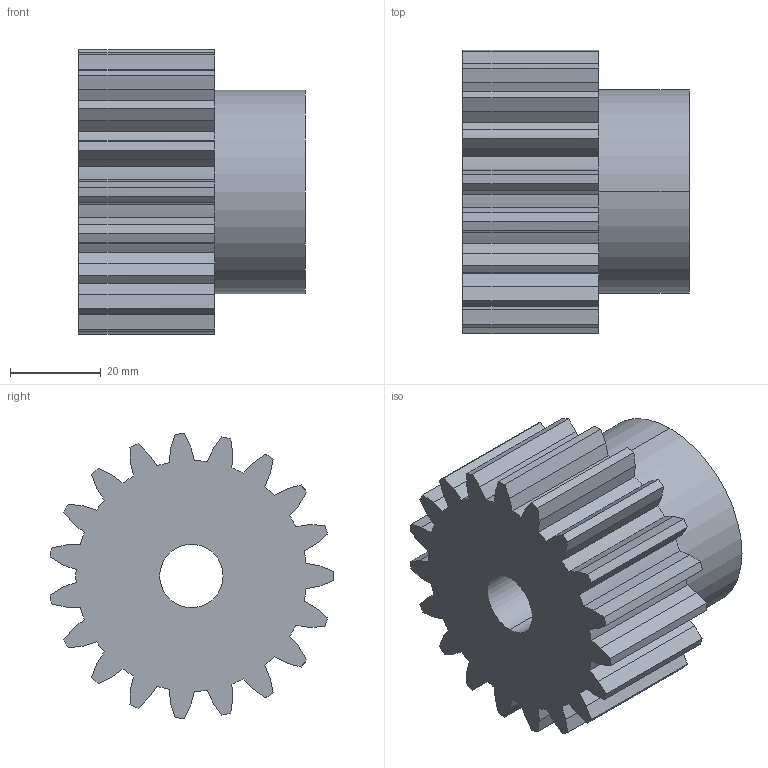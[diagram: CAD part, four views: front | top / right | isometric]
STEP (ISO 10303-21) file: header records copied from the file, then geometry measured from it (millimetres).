
FILE_DESCRIPTION (( 'STEP AP203' ), '1' );
FILE_NAME ('PM 30019.STEP', '2013-09-25T13:43:01', ( '' ), ( '' ), 'SwSTEP 2.0', 'SolidWorks 2010', '' );
FILE_SCHEMA (( 'CONFIG_CONTROL_DESIGN' ));
Length unit declared in the file: millimetre
Products named in the file (1): PM 30019
Bounding box: 50 x 62.72 x 62.92 mm (x, y, z)
Volume: 99555 mm3; surface area: 19821.4 mm2
Topology: 1 solids, 1 shells, 121 faces, 354 edges, 236 vertices
Faces by surface type: plane 79, cylinder 42
Entity records: 4169 total; most frequent: CARTESIAN_POINT 991, ORIENTED_EDGE 708, DIRECTION 572, EDGE_CURVE 354, VERTEX_POINT 236, LINE 194, VECTOR 194, AXIS2_PLACEMENT_3D 189
